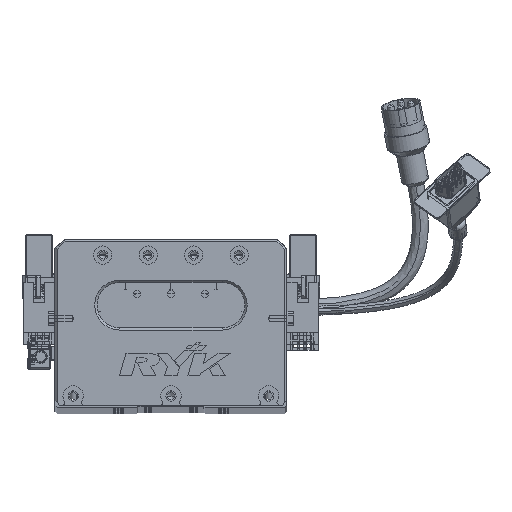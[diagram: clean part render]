
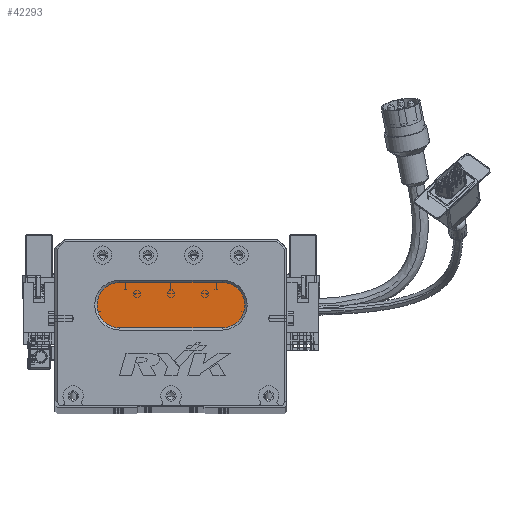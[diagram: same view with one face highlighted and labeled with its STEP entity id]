
A CAD part, top view. The second image highlights one B-rep face of the part: STEP entity #42293.
In plain terms, the highlighted planar face has unit normal (0, 0, 1) as drawn and (0, 0, -1) by its records, which use the part's own axes.
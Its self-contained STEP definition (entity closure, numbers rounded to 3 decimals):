
#807 = DIRECTION ( 'NONE',  ( 0., 0., -1. ) ) ;
#1212 = AXIS2_PLACEMENT_3D ( 'NONE', #46164, #28924, #10854 ) ;
#3387 = FACE_OUTER_BOUND ( 'NONE', #63552, .T. ) ;
#4089 = LINE ( 'NONE', #16269, #22535 ) ;
#4462 = CARTESIAN_POINT ( 'NONE',  ( 28.5, 34., 13. ) ) ;
#4923 = CIRCLE ( 'NONE', #53310, 10. ) ;
#5717 = DIRECTION ( 'NONE',  ( 0., 0., -1. ) ) ;
#5868 = EDGE_CURVE ( 'NONE', #58945, #63904, #72454, .T. ) ;
#6000 = ORIENTED_EDGE ( 'NONE', *, *, #43904, .T. ) ;
#7811 = VERTEX_POINT ( 'NONE', #60389 ) ;
#10854 = DIRECTION ( 'NONE',  ( -1., 0., 0. ) ) ;
#12072 = ORIENTED_EDGE ( 'NONE', *, *, #33431, .T. ) ;
#12438 = DIRECTION ( 'NONE',  ( -1., 0., 0. ) ) ;
#15297 = CARTESIAN_POINT ( 'NONE',  ( 73.5, 54., 13. ) ) ;
#16269 = CARTESIAN_POINT ( 'NONE',  ( 73.5, 34., 13. ) ) ;
#16647 = VERTEX_POINT ( 'NONE', #4462 ) ;
#18492 = EDGE_CURVE ( 'NONE', #63904, #16647, #4089, .T. ) ;
#22535 = VECTOR ( 'NONE', #28644, 1000. ) ;
#27171 = LINE ( 'NONE', #15297, #34508 ) ;
#28151 = CARTESIAN_POINT ( 'NONE',  ( 73.5, 54., 13. ) ) ;
#28644 = DIRECTION ( 'NONE',  ( -1., 0., 0. ) ) ;
#28737 = AXIS2_PLACEMENT_3D ( 'NONE', #47219, #807, #64588 ) ;
#28924 = DIRECTION ( 'NONE',  ( 0., 0., -1. ) ) ;
#31008 = DIRECTION ( 'NONE',  ( 0., 0., -1. ) ) ;
#32006 = AXIS2_PLACEMENT_3D ( 'NONE', #65887, #31008, #12438 ) ;
#33431 = EDGE_CURVE ( 'NONE', #39321, #7811, #4923, .T. ) ;
#34508 = VECTOR ( 'NONE', #56037, 1000. ) ;
#35182 = EDGE_CURVE ( 'NONE', #16647, #39321, #60003, .T. ) ;
#39321 = VERTEX_POINT ( 'NONE', #71231 ) ;
#42293 = ADVANCED_FACE ( 'NONE', ( #3387 ), #59909, .T. ) ;
#43904 = EDGE_CURVE ( 'NONE', #7811, #58945, #27171, .T. ) ;
#46164 = CARTESIAN_POINT ( 'NONE',  ( 73.5, 44., 13. ) ) ;
#47219 = CARTESIAN_POINT ( 'NONE',  ( 28.5, 44., 13. ) ) ;
#52329 = DIRECTION ( 'NONE',  ( -1., 0., 0. ) ) ;
#52575 = CARTESIAN_POINT ( 'NONE',  ( 28.5, 44., 13. ) ) ;
#53310 = AXIS2_PLACEMENT_3D ( 'NONE', #52575, #5717, #52329 ) ;
#56037 = DIRECTION ( 'NONE',  ( 1., 0., 0. ) ) ;
#57852 = ORIENTED_EDGE ( 'NONE', *, *, #18492, .T. ) ;
#58945 = VERTEX_POINT ( 'NONE', #28151 ) ;
#59549 = ORIENTED_EDGE ( 'NONE', *, *, #35182, .T. ) ;
#59909 = PLANE ( 'NONE',  #32006 ) ;
#60003 = CIRCLE ( 'NONE', #28737, 10. ) ;
#60389 = CARTESIAN_POINT ( 'NONE',  ( 28.5, 54., 13. ) ) ;
#63552 = EDGE_LOOP ( 'NONE', ( #76466, #57852, #59549, #12072, #6000 ) ) ;
#63904 = VERTEX_POINT ( 'NONE', #71115 ) ;
#64588 = DIRECTION ( 'NONE',  ( -1., 0., 0. ) ) ;
#65887 = CARTESIAN_POINT ( 'NONE',  ( 73.5, 44., 13. ) ) ;
#71115 = CARTESIAN_POINT ( 'NONE',  ( 73.5, 34., 13. ) ) ;
#71231 = CARTESIAN_POINT ( 'NONE',  ( 18.5, 44., 13. ) ) ;
#72454 = CIRCLE ( 'NONE', #1212, 10. ) ;
#76466 = ORIENTED_EDGE ( 'NONE', *, *, #5868, .T. ) ;
